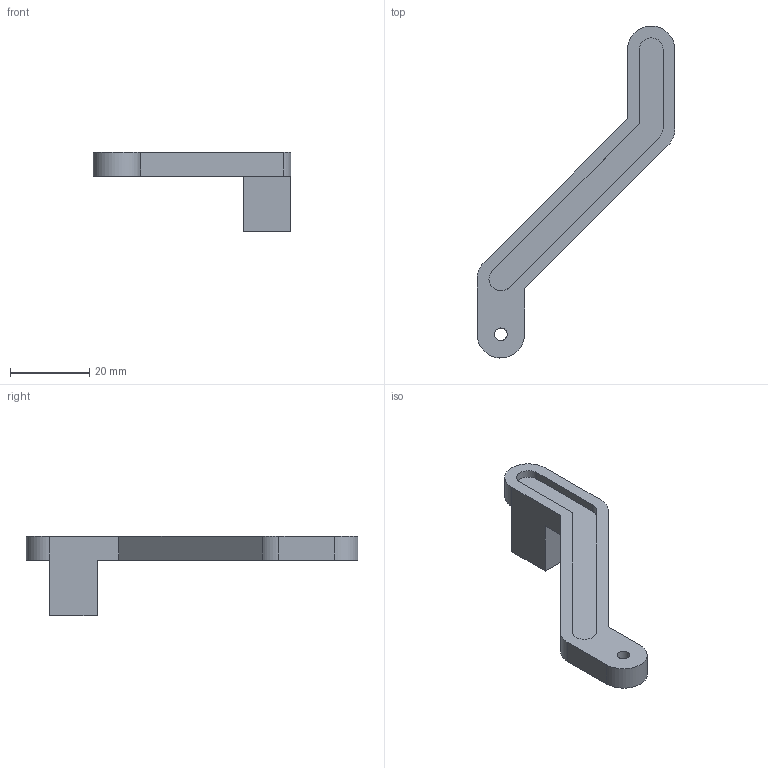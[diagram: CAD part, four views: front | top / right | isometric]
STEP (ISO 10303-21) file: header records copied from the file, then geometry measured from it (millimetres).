
FILE_DESCRIPTION(('STEP'), '1');
FILE_NAME('left-rear-temple', '2026-11-05T01:20:31', (''), (''), 'Express 3.1.3.0', 'Express Tool', 'Unknown');
FILE_SCHEMA(('AUTOMOTIVE_DESIGN'));
Length unit declared in the file: millimetre
Products named in the file (1): left-rear-temple
Bounding box: 50.04 x 83.97 x 20 mm (x, y, z)
Volume: 7801.5 mm3; surface area: 4798.7 mm2
Topology: 1 solids, 1 shells, 30 faces, 76 edges, 50 vertices
Faces by surface type: bspline 30
Entity records: 1041 total; most frequent: CARTESIAN_POINT 499, ORIENTED_EDGE 152, EDGE_CURVE 76, B_SPLINE_CURVE_WITH_KNOTS 60, VERTEX_POINT 50, DIRECTION 38, EDGE_LOOP 34, ADVANCED_FACE 30
